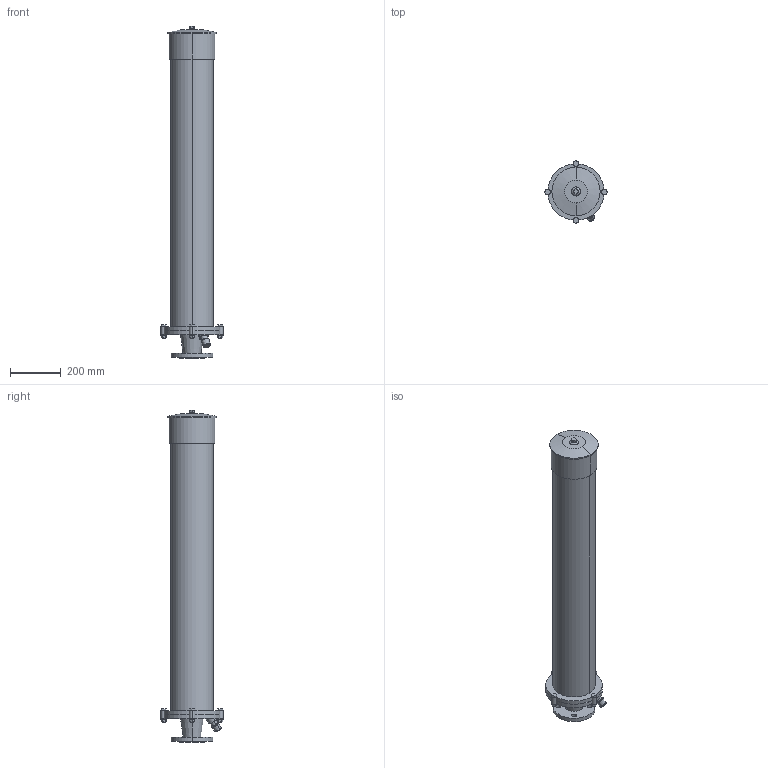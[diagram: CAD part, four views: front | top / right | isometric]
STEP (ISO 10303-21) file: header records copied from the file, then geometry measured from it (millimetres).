
FILE_DESCRIPTION(('STEP AP214'),'1');
FILE_NAME('S:/EK/USER/CAT6/3DHomepage/9822/9822-PN16-DN50-1305.STP','2012-04-26T08:03:31',(' '),(' '),'Spatial InterOp 3D',' ',' ');
FILE_SCHEMA(('automotive_design'));
Length unit declared in the file: millimetre
Products named in the file (37): 3D-Objekt
Bounding box: 245 x 245 x 1305 mm (x, y, z)
Volume: 28228564.1 mm3; surface area: 1144309.1 mm2
Topology: 37 solids, 37 shells, 196 faces, 368 edges, 244 vertices
Faces by surface type: plane 126, cylinder 54, cone 12, torus 4
Entity records: 7369 total; most frequent: DIRECTION 974, CARTESIAN_POINT 845, ORIENTED_EDGE 736, AXIS2_PLACEMENT_3D 373, EDGE_CURVE 368, VERTEX_POINT 244, STYLED_ITEM 233, PRESENTATION_STYLE_ASSIGNMENT 233
